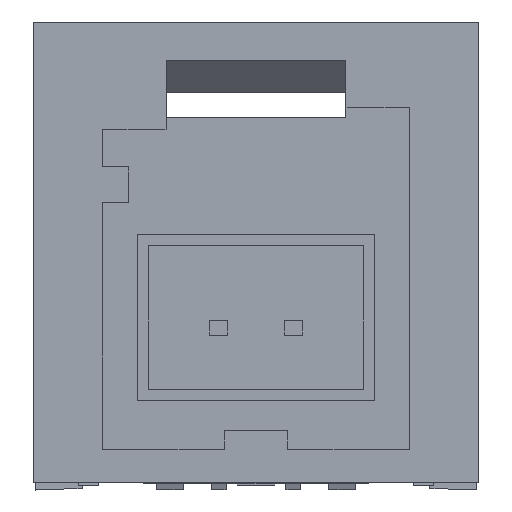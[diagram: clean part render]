
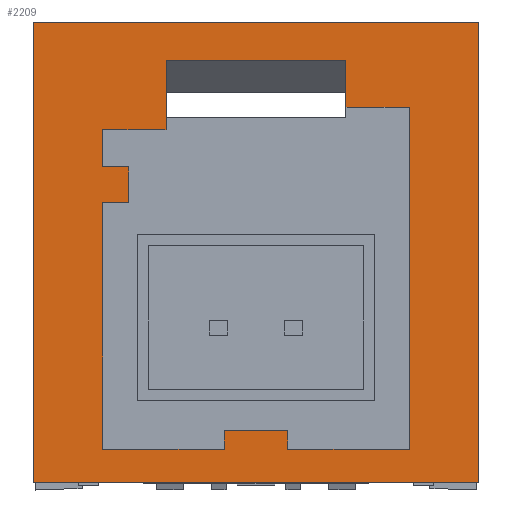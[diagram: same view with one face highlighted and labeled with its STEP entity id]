
A CAD part, left-side view. The second image highlights one B-rep face of the part: STEP entity #2209.
In plain terms, the highlighted planar face has unit normal (-1, 0, 0).
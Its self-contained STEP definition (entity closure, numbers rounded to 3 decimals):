
#2043=AXIS2_PLACEMENT_3D('Plane Axis2P3D',#2040,#2041,#2042) ;
#1367=CARTESIAN_POINT('Vertex',(-15.,6.95,-4.2)) ;
#1370=CARTESIAN_POINT('Line Origine',(-15.,6.95,1.95)) ;
#1374=CARTESIAN_POINT('Vertex',(-15.,6.95,8.1)) ;
#1781=CARTESIAN_POINT('Vertex',(-15.,-4.95,-4.2)) ;
#1784=CARTESIAN_POINT('Line Origine',(-15.,1.,-4.2)) ;
#2040=CARTESIAN_POINT('Axis2P3D Location',(-15.,1.,0.)) ;
#2045=CARTESIAN_POINT('Line Origine',(-15.,-4.95,1.95)) ;
#2049=CARTESIAN_POINT('Vertex',(-15.,-4.95,8.1)) ;
#2052=CARTESIAN_POINT('Line Origine',(-15.,1.,8.1)) ;
#2063=CARTESIAN_POINT('Line Origine',(-15.,-1.475,-3.325)) ;
#2067=CARTESIAN_POINT('Vertex',(-15.,0.15,-3.325)) ;
#2069=CARTESIAN_POINT('Vertex',(-15.,-3.1,-3.325)) ;
#2072=CARTESIAN_POINT('Line Origine',(-15.,0.15,-3.075)) ;
#2076=CARTESIAN_POINT('Vertex',(-15.,0.15,-2.825)) ;
#2079=CARTESIAN_POINT('Line Origine',(-15.,1.,-2.825)) ;
#2083=CARTESIAN_POINT('Vertex',(-15.,1.85,-2.825)) ;
#2086=CARTESIAN_POINT('Line Origine',(-15.,1.85,-3.075)) ;
#2090=CARTESIAN_POINT('Vertex',(-15.,1.85,-3.325)) ;
#2093=CARTESIAN_POINT('Line Origine',(-15.,3.475,-3.325)) ;
#2097=CARTESIAN_POINT('Vertex',(-15.,5.1,-3.325)) ;
#2100=CARTESIAN_POINT('Line Origine',(-15.,5.1,-0.025)) ;
#2104=CARTESIAN_POINT('Vertex',(-15.,5.1,3.275)) ;
#2107=CARTESIAN_POINT('Line Origine',(-15.,4.75,3.275)) ;
#2111=CARTESIAN_POINT('Vertex',(-15.,4.4,3.275)) ;
#2114=CARTESIAN_POINT('Line Origine',(-15.,4.4,3.75)) ;
#2118=CARTESIAN_POINT('Vertex',(-15.,4.4,4.225)) ;
#2121=CARTESIAN_POINT('Line Origine',(-15.,4.75,4.225)) ;
#2125=CARTESIAN_POINT('Vertex',(-15.,5.1,4.225)) ;
#2128=CARTESIAN_POINT('Line Origine',(-15.,5.1,4.725)) ;
#2132=CARTESIAN_POINT('Vertex',(-15.,5.1,5.225)) ;
#2135=CARTESIAN_POINT('Line Origine',(-15.,4.3,5.225)) ;
#2139=CARTESIAN_POINT('Vertex',(-15.,3.5,5.225)) ;
#2142=CARTESIAN_POINT('Line Origine',(-15.,3.45,5.225)) ;
#2146=CARTESIAN_POINT('Vertex',(-15.,3.4,5.225)) ;
#2149=CARTESIAN_POINT('Line Origine',(-15.,3.4,6.15)) ;
#2153=CARTESIAN_POINT('Vertex',(-15.,3.4,7.075)) ;
#2156=CARTESIAN_POINT('Line Origine',(-15.,1.,7.075)) ;
#2160=CARTESIAN_POINT('Vertex',(-15.,-1.4,7.075)) ;
#2163=CARTESIAN_POINT('Line Origine',(-15.,-1.4,6.45)) ;
#2167=CARTESIAN_POINT('Vertex',(-15.,-1.4,5.825)) ;
#2170=CARTESIAN_POINT('Line Origine',(-15.,-1.45,5.825)) ;
#2174=CARTESIAN_POINT('Vertex',(-15.,-1.5,5.825)) ;
#2177=CARTESIAN_POINT('Line Origine',(-15.,-2.3,5.825)) ;
#2181=CARTESIAN_POINT('Vertex',(-15.,-3.1,5.825)) ;
#2184=CARTESIAN_POINT('Line Origine',(-15.,-3.1,1.25)) ;
#1371=DIRECTION('Vector Direction',(0.,0.,-1.)) ;
#1785=DIRECTION('Vector Direction',(0.,1.,0.)) ;
#2041=DIRECTION('Axis2P3D Direction',(1.,0.,0.)) ;
#2042=DIRECTION('Axis2P3D XDirection',(0.,1.,0.)) ;
#2046=DIRECTION('Vector Direction',(0.,0.,-1.)) ;
#2053=DIRECTION('Vector Direction',(0.,1.,0.)) ;
#2064=DIRECTION('Vector Direction',(0.,-1.,0.)) ;
#2073=DIRECTION('Vector Direction',(0.,0.,-1.)) ;
#2080=DIRECTION('Vector Direction',(0.,1.,0.)) ;
#2087=DIRECTION('Vector Direction',(0.,0.,1.)) ;
#2094=DIRECTION('Vector Direction',(0.,-1.,0.)) ;
#2101=DIRECTION('Vector Direction',(0.,0.,1.)) ;
#2108=DIRECTION('Vector Direction',(0.,-1.,0.)) ;
#2115=DIRECTION('Vector Direction',(0.,0.,1.)) ;
#2122=DIRECTION('Vector Direction',(0.,1.,0.)) ;
#2129=DIRECTION('Vector Direction',(0.,0.,1.)) ;
#2136=DIRECTION('Vector Direction',(0.,1.,0.)) ;
#2143=DIRECTION('Vector Direction',(0.,1.,0.)) ;
#2150=DIRECTION('Vector Direction',(0.,0.,1.)) ;
#2157=DIRECTION('Vector Direction',(0.,-1.,0.)) ;
#2164=DIRECTION('Vector Direction',(0.,0.,1.)) ;
#2171=DIRECTION('Vector Direction',(0.,-1.,0.)) ;
#2178=DIRECTION('Vector Direction',(0.,-1.,0.)) ;
#2185=DIRECTION('Vector Direction',(0.,0.,1.)) ;
#1372=VECTOR('Line Direction',#1371,1.) ;
#1786=VECTOR('Line Direction',#1785,1.) ;
#2047=VECTOR('Line Direction',#2046,1.) ;
#2054=VECTOR('Line Direction',#2053,1.) ;
#2065=VECTOR('Line Direction',#2064,1.) ;
#2074=VECTOR('Line Direction',#2073,1.) ;
#2081=VECTOR('Line Direction',#2080,1.) ;
#2088=VECTOR('Line Direction',#2087,1.) ;
#2095=VECTOR('Line Direction',#2094,1.) ;
#2102=VECTOR('Line Direction',#2101,1.) ;
#2109=VECTOR('Line Direction',#2108,1.) ;
#2116=VECTOR('Line Direction',#2115,1.) ;
#2123=VECTOR('Line Direction',#2122,1.) ;
#2130=VECTOR('Line Direction',#2129,1.) ;
#2137=VECTOR('Line Direction',#2136,1.) ;
#2144=VECTOR('Line Direction',#2143,1.) ;
#2151=VECTOR('Line Direction',#2150,1.) ;
#2158=VECTOR('Line Direction',#2157,1.) ;
#2165=VECTOR('Line Direction',#2164,1.) ;
#2172=VECTOR('Line Direction',#2171,1.) ;
#2179=VECTOR('Line Direction',#2178,1.) ;
#2186=VECTOR('Line Direction',#2185,1.) ;
#2058=ORIENTED_EDGE('',*,*,#1376,.T.) ;
#2059=ORIENTED_EDGE('',*,*,#1788,.F.) ;
#2060=ORIENTED_EDGE('',*,*,#2051,.F.) ;
#2061=ORIENTED_EDGE('',*,*,#2056,.T.) ;
#2190=ORIENTED_EDGE('',*,*,#2071,.F.) ;
#2191=ORIENTED_EDGE('',*,*,#2078,.F.) ;
#2192=ORIENTED_EDGE('',*,*,#2085,.T.) ;
#2193=ORIENTED_EDGE('',*,*,#2092,.F.) ;
#2194=ORIENTED_EDGE('',*,*,#2099,.F.) ;
#2195=ORIENTED_EDGE('',*,*,#2106,.T.) ;
#2196=ORIENTED_EDGE('',*,*,#2113,.T.) ;
#2197=ORIENTED_EDGE('',*,*,#2120,.T.) ;
#2198=ORIENTED_EDGE('',*,*,#2127,.T.) ;
#2199=ORIENTED_EDGE('',*,*,#2134,.T.) ;
#2200=ORIENTED_EDGE('',*,*,#2141,.F.) ;
#2201=ORIENTED_EDGE('',*,*,#2148,.F.) ;
#2202=ORIENTED_EDGE('',*,*,#2155,.T.) ;
#2203=ORIENTED_EDGE('',*,*,#2162,.T.) ;
#2204=ORIENTED_EDGE('',*,*,#2169,.F.) ;
#2205=ORIENTED_EDGE('',*,*,#2176,.T.) ;
#2206=ORIENTED_EDGE('',*,*,#2183,.T.) ;
#2207=ORIENTED_EDGE('',*,*,#2188,.F.) ;
#2208=FACE_BOUND('',#2189,.T.) ;
#2209=ADVANCED_FACE('\X2\FF8AFF9FFF70FF82\X0\ \X2\FF8EFF9EFF83FF9EFF68FF70\X0\',(#2062,#2208),#2044,.F.) ;
#1376=EDGE_CURVE('',#1375,#1368,#1373,.T.) ;
#1788=EDGE_CURVE('',#1782,#1368,#1787,.T.) ;
#2051=EDGE_CURVE('',#2050,#1782,#2048,.T.) ;
#2056=EDGE_CURVE('',#2050,#1375,#2055,.T.) ;
#2071=EDGE_CURVE('',#2068,#2070,#2066,.T.) ;
#2078=EDGE_CURVE('',#2077,#2068,#2075,.T.) ;
#2085=EDGE_CURVE('',#2077,#2084,#2082,.T.) ;
#2092=EDGE_CURVE('',#2091,#2084,#2089,.T.) ;
#2099=EDGE_CURVE('',#2098,#2091,#2096,.T.) ;
#2106=EDGE_CURVE('',#2098,#2105,#2103,.T.) ;
#2113=EDGE_CURVE('',#2105,#2112,#2110,.T.) ;
#2120=EDGE_CURVE('',#2112,#2119,#2117,.T.) ;
#2127=EDGE_CURVE('',#2119,#2126,#2124,.T.) ;
#2134=EDGE_CURVE('',#2126,#2133,#2131,.T.) ;
#2141=EDGE_CURVE('',#2140,#2133,#2138,.T.) ;
#2148=EDGE_CURVE('',#2147,#2140,#2145,.T.) ;
#2155=EDGE_CURVE('',#2147,#2154,#2152,.T.) ;
#2162=EDGE_CURVE('',#2154,#2161,#2159,.T.) ;
#2169=EDGE_CURVE('',#2168,#2161,#2166,.T.) ;
#2176=EDGE_CURVE('',#2168,#2175,#2173,.T.) ;
#2183=EDGE_CURVE('',#2175,#2182,#2180,.T.) ;
#2188=EDGE_CURVE('',#2070,#2182,#2187,.T.) ;
#2057=EDGE_LOOP('',(#2058,#2059,#2060,#2061)) ;
#2189=EDGE_LOOP('',(#2190,#2191,#2192,#2193,#2194,#2195,#2196,#2197,#2198,#2199,#2200,#2201,#2202,#2203,#2204,#2205,#2206,#2207)) ;
#2062=FACE_OUTER_BOUND('',#2057,.T.) ;
#1373=LINE('Line',#1370,#1372) ;
#1787=LINE('Line',#1784,#1786) ;
#2048=LINE('Line',#2045,#2047) ;
#2055=LINE('Line',#2052,#2054) ;
#2066=LINE('Line',#2063,#2065) ;
#2075=LINE('Line',#2072,#2074) ;
#2082=LINE('Line',#2079,#2081) ;
#2089=LINE('Line',#2086,#2088) ;
#2096=LINE('Line',#2093,#2095) ;
#2103=LINE('Line',#2100,#2102) ;
#2110=LINE('Line',#2107,#2109) ;
#2117=LINE('Line',#2114,#2116) ;
#2124=LINE('Line',#2121,#2123) ;
#2131=LINE('Line',#2128,#2130) ;
#2138=LINE('Line',#2135,#2137) ;
#2145=LINE('Line',#2142,#2144) ;
#2152=LINE('Line',#2149,#2151) ;
#2159=LINE('Line',#2156,#2158) ;
#2166=LINE('Line',#2163,#2165) ;
#2173=LINE('Line',#2170,#2172) ;
#2180=LINE('Line',#2177,#2179) ;
#2187=LINE('Line',#2184,#2186) ;
#2044=PLANE('',#2043) ;
#1368=VERTEX_POINT('',#1367) ;
#1375=VERTEX_POINT('',#1374) ;
#1782=VERTEX_POINT('',#1781) ;
#2050=VERTEX_POINT('',#2049) ;
#2068=VERTEX_POINT('',#2067) ;
#2070=VERTEX_POINT('',#2069) ;
#2077=VERTEX_POINT('',#2076) ;
#2084=VERTEX_POINT('',#2083) ;
#2091=VERTEX_POINT('',#2090) ;
#2098=VERTEX_POINT('',#2097) ;
#2105=VERTEX_POINT('',#2104) ;
#2112=VERTEX_POINT('',#2111) ;
#2119=VERTEX_POINT('',#2118) ;
#2126=VERTEX_POINT('',#2125) ;
#2133=VERTEX_POINT('',#2132) ;
#2140=VERTEX_POINT('',#2139) ;
#2147=VERTEX_POINT('',#2146) ;
#2154=VERTEX_POINT('',#2153) ;
#2161=VERTEX_POINT('',#2160) ;
#2168=VERTEX_POINT('',#2167) ;
#2175=VERTEX_POINT('',#2174) ;
#2182=VERTEX_POINT('',#2181) ;
